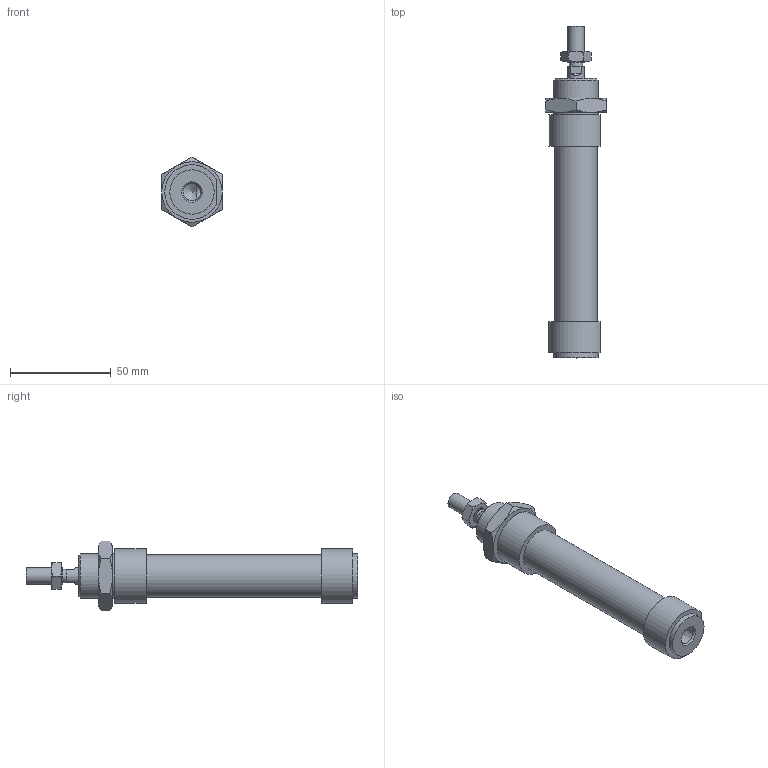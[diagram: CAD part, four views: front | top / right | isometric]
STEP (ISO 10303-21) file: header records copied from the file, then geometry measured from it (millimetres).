
FILE_DESCRIPTION((''),'2;1');
FILE_NAME('I:\Area Tecnica\Disegni\VARIE-3D\Componenti\1280\1281_##_####_#\1281_20_0050.iam.stp','2009-06-04T09:39:04',(''),(''),'Autodesk Inventor 2010','Autodesk Inventor 2010','');
FILE_SCHEMA(('AUTOMOTIVE_DESIGN { 1 0 10303 214 1 1 1 1 }'));
Length unit declared in the file: millimetre
Products named in the file (5): 1281_20_0050; C1281_20_50; S1280_20_50; 1200_20_05; 1200_20_06
Assembly tree (4 placements, depth 2):
  1281_20_0050
    C1281_20_50
    S1280_20_50
    1200_20_05
    1200_20_06
Bounding box: 30 x 164.5 x 34.64 mm (x, y, z)
Volume: 58967.9 mm3; surface area: 19320.6 mm2
Topology: 4 solids, 4 shells, 86 faces, 185 edges, 112 vertices
Faces by surface type: plane 36, cone 26, bspline 15, cylinder 9
Full cylindrical faces by diameter (mm): 6.5 x1, 8 x3, 21.2 x1, 22 x2
Entity records: 2537 total; most frequent: CARTESIAN_POINT 698, DIRECTION 332, ORIENTED_EDGE 310, EDGE_CURVE 155, AXIS2_PLACEMENT_3D 148, EDGE_LOOP 120, VERTEX_POINT 103, STYLED_ITEM 90
